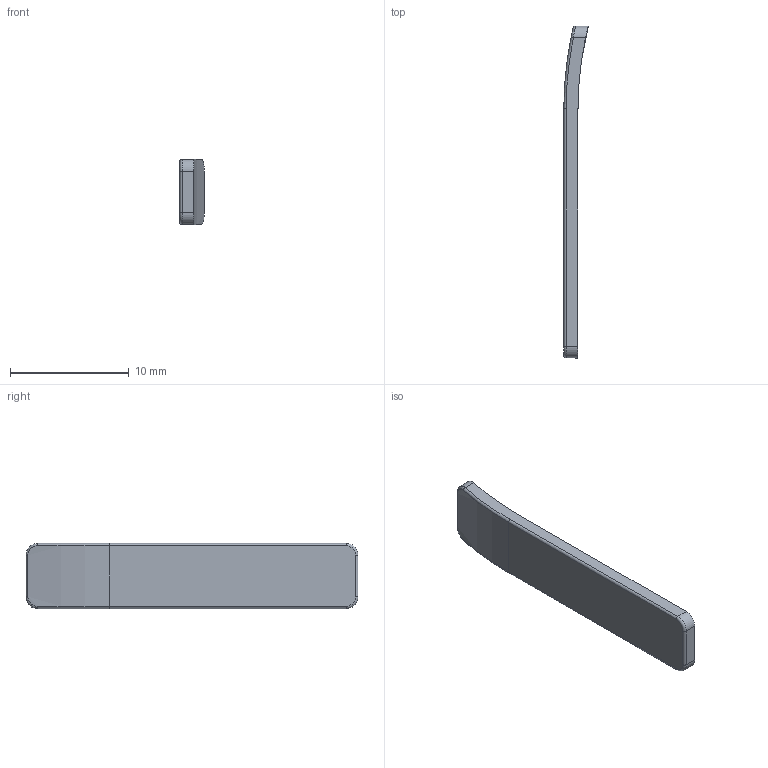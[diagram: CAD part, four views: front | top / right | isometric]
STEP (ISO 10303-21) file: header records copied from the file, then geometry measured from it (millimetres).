
FILE_DESCRIPTION((''),'2;1');
FILE_NAME('ID-GTC-SD-COV_PRT','2008-06-30T',('GRA'),(''),'PRO/ENGINEER BY PARAMETRIC TECHNOLOGY CORPORATION, 2006170','PRO/ENGINEER BY PARAMETRIC TECHNOLOGY CORPORATION, 2006170','');
FILE_SCHEMA(('CONFIG_CONTROL_DESIGN'));
Length unit declared in the file: millimetre
Products named in the file (1): ID-GTC-SD-COV_PRT
Bounding box: 2.06 x 28 x 5.5 mm (x, y, z)
Volume: 183.7 mm3; surface area: 380.2 mm2
Topology: 1 solids, 1 shells, 22 faces, 50 edges, 30 vertices
Faces by surface type: cylinder 10, plane 6, torus 4, bspline 2
Entity records: 812 total; most frequent: CARTESIAN_POINT 280, DIRECTION 106, ORIENTED_EDGE 100, EDGE_CURVE 50, AXIS2_PLACEMENT_3D 42, VERTEX_POINT 30, VECTOR 22, LINE 22
